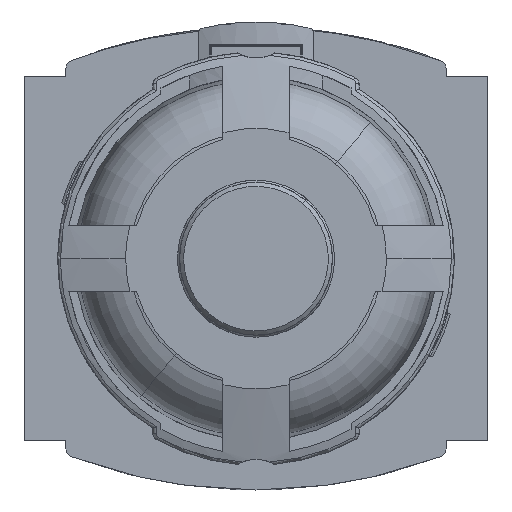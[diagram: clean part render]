
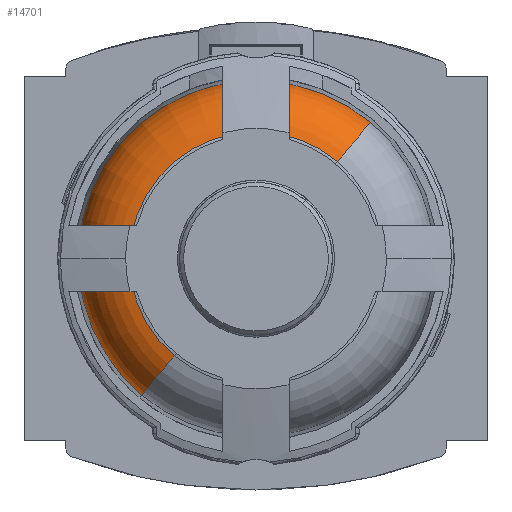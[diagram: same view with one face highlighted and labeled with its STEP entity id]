
A CAD part, front view. The second image highlights one B-rep face of the part: STEP entity #14701.
In plain terms, the highlighted toroidal (fillet/blend) face has major radius 14.043 mm and minor radius 7.5 mm.
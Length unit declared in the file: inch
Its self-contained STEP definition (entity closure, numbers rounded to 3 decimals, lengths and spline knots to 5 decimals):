
#11839=TOROIDAL_SURFACE('',#41726,0.55287,0.29528);
#12728=B_SPLINE_CURVE_WITH_KNOTS('',3,(#51383,#51384,#51385,#51386,#51387,
#51388,#51389,#51390,#51391,#51392),.UNSPECIFIED.,.F.,.F.,(4,2,2,2,4),(0.,
0.25,0.5,0.75,1.),.UNSPECIFIED.);
#14391=CIRCLE('',#41681,0.60415);
#14392=CIRCLE('',#41723,0.29528);
#14393=CIRCLE('',#41724,0.29528);
#14701=ADVANCED_FACE('',(#17296),#11839,.T.);
#17296=FACE_OUTER_BOUND('',#18952,.T.);
#18952=EDGE_LOOP('',(#21430,#21431,#21432,#21433));
#21430=ORIENTED_EDGE('',*,*,#32838,.F.);
#21431=ORIENTED_EDGE('',*,*,#32741,.T.);
#21432=ORIENTED_EDGE('',*,*,#32840,.F.);
#21433=ORIENTED_EDGE('',*,*,#32841,.T.);
#29704=VERTEX_POINT('',#50790);
#29705=VERTEX_POINT('',#50792);
#29754=VERTEX_POINT('',#51369);
#29755=VERTEX_POINT('',#51380);
#32741=EDGE_CURVE('',#29704,#29705,#14391,.T.);
#32838=EDGE_CURVE('',#29704,#29754,#14392,.T.);
#32840=EDGE_CURVE('',#29755,#29705,#14393,.T.);
#32841=EDGE_CURVE('',#29755,#29754,#12728,.T.);
#41681=AXIS2_PLACEMENT_3D('',#50798,#43695,#43696);
#41723=AXIS2_PLACEMENT_3D('',#51368,#43779,#43780);
#41724=AXIS2_PLACEMENT_3D('',#51381,#43781,#43782);
#41726=AXIS2_PLACEMENT_3D('',#51393,#43785,#43786);
#43695=DIRECTION('',(0.,1.,0.));
#43696=DIRECTION('',(-0.766,0.,0.643));
#43779=DIRECTION('',(0.766,0.,-0.643));
#43780=DIRECTION('',(-0.643,0.,-0.766));
#43781=DIRECTION('',(0.766,0.,-0.643));
#43782=DIRECTION('',(-0.643,0.,-0.766));
#43785=DIRECTION('',(0.,-1.,0.));
#43786=DIRECTION('',(-0.643,0.,-0.766));
#50790=CARTESIAN_POINT('',(-0.38834,-2.6743,-0.4628));
#50792=CARTESIAN_POINT('',(0.38834,-2.6743,0.4628));
#50798=CARTESIAN_POINT('',(0.,-2.6743,0.));
#51368=CARTESIAN_POINT('',(-0.35538,-2.38351,-0.42352));
#51369=CARTESIAN_POINT('',(-0.54517,-2.38553,-0.64971));
#51380=CARTESIAN_POINT('',(0.54517,-2.38553,0.64971));
#51381=CARTESIAN_POINT('',(0.35538,-2.38351,0.42352));
#51383=CARTESIAN_POINT('',(0.54517,-2.38553,0.64971));
#51384=CARTESIAN_POINT('',(0.37508,-2.38553,0.79244));
#51385=CARTESIAN_POINT('',(0.14728,-2.38553,0.86427));
#51386=CARTESIAN_POINT('',(-0.29512,-2.38553,0.82556));
#51387=CARTESIAN_POINT('',(-0.50699,-2.38553,0.71527));
#51388=CARTESIAN_POINT('',(-0.79244,-2.38553,0.37508));
#51389=CARTESIAN_POINT('',(-0.86427,-2.38553,0.14728));
#51390=CARTESIAN_POINT('',(-0.82556,-2.38553,-0.29512));
#51391=CARTESIAN_POINT('',(-0.71527,-2.38553,-0.50699));
#51392=CARTESIAN_POINT('',(-0.54517,-2.38553,-0.64971));
#51393=CARTESIAN_POINT('',(0.,-2.38351,0.));
